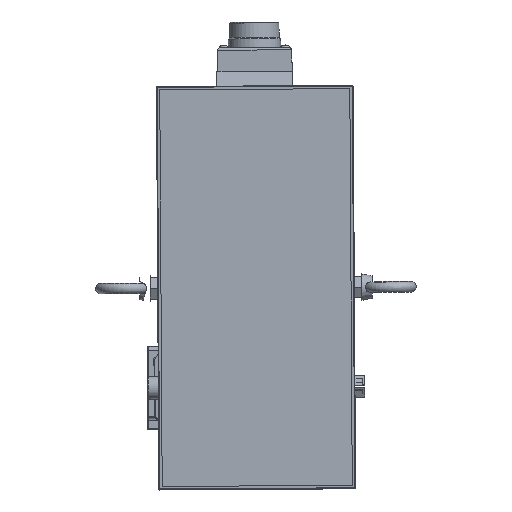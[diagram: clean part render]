
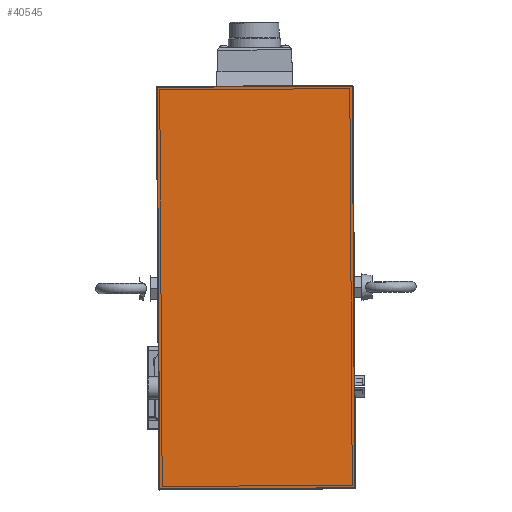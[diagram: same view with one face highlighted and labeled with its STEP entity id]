
A CAD part, top view. The second image highlights one B-rep face of the part: STEP entity #40545.
In plain terms, the highlighted planar face has unit normal (0, 0, 1).
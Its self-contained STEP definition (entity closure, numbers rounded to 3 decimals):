
#1690=PLANE('',#44117);
#5898=FACE_OUTER_BOUND('',#8326,.T.);
#8326=EDGE_LOOP('',(#34195,#34196,#34197,#34198));
#13334=LINE('',#76378,#16270);
#13335=LINE('',#76380,#16271);
#13336=LINE('',#76382,#16272);
#13337=LINE('',#76383,#16273);
#16270=VECTOR('',#53099,10.);
#16271=VECTOR('',#53100,10.);
#16272=VECTOR('',#53101,10.);
#16273=VECTOR('',#53102,10.);
#19879=VERTEX_POINT('',#76376);
#19880=VERTEX_POINT('',#76377);
#19881=VERTEX_POINT('',#76379);
#19882=VERTEX_POINT('',#76381);
#24919=EDGE_CURVE('',#19879,#19880,#13334,.T.);
#24920=EDGE_CURVE('',#19881,#19879,#13335,.T.);
#24921=EDGE_CURVE('',#19882,#19881,#13336,.T.);
#24922=EDGE_CURVE('',#19880,#19882,#13337,.T.);
#34195=ORIENTED_EDGE('',*,*,#24919,.F.);
#34196=ORIENTED_EDGE('',*,*,#24920,.F.);
#34197=ORIENTED_EDGE('',*,*,#24921,.F.);
#34198=ORIENTED_EDGE('',*,*,#24922,.F.);
#40545=ADVANCED_FACE('',(#5898),#1690,.T.);
#44117=AXIS2_PLACEMENT_3D('',#76375,#53097,#53098);
#53097=DIRECTION('center_axis',(0.,0.,
1.));
#53098=DIRECTION('ref_axis',(0.006,-1.,0.));
#53099=DIRECTION('',(-0.006,1.,0.));
#53100=DIRECTION('',(-1.,-0.006,0.));
#53101=DIRECTION('',(0.006,-1.,0.));
#53102=DIRECTION('',(1.,0.006,0.));
#76375=CARTESIAN_POINT('Origin',(57.867,-59.646,573.));
#76376=CARTESIAN_POINT('',(-58.622,-61.861,573.));
#76377=CARTESIAN_POINT('',(-60.112,181.135,573.));
#76378=CARTESIAN_POINT('',(-58.631,-60.361,573.));
#76379=CARTESIAN_POINT('',(59.376,-61.137,573.));
#76380=CARTESIAN_POINT('',(29.127,-61.322,573.));
#76381=CARTESIAN_POINT('',(57.886,181.858,573.));
#76382=CARTESIAN_POINT('',(59.367,-59.637,573.));
#76383=CARTESIAN_POINT('',(27.636,181.673,573.));
